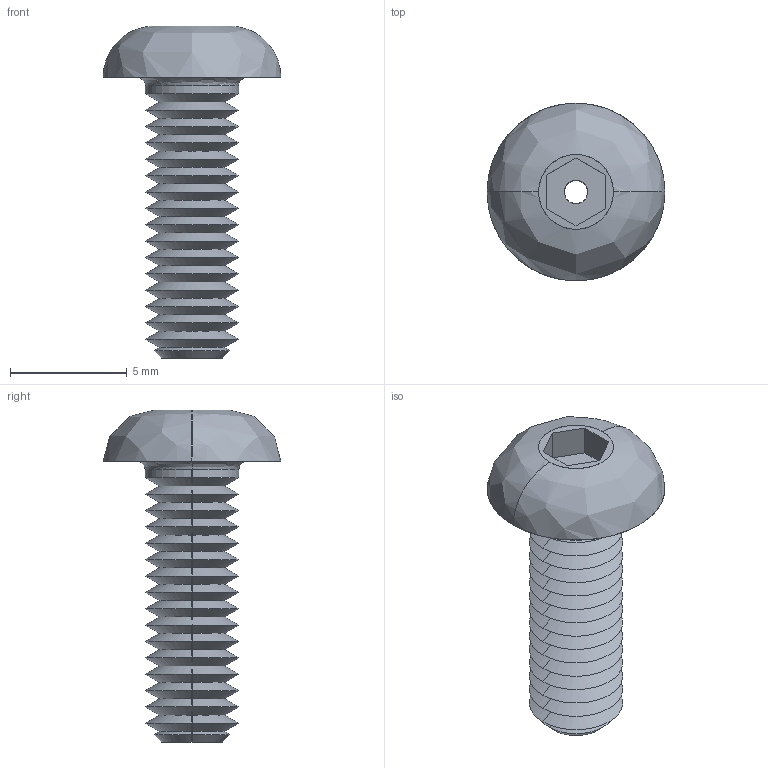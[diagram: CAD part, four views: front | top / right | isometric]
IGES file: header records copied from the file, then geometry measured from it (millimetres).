
Start section: SolidWorks IGES file using analytic representation for surfaces
Global section: file name: C:\Users\liam_\OneDrive\Documents\WORK\Work for WixRoyd\Job Files\J-00019 - Matt Davis CAD Checking\04. CAD Drawings\automotion20190605\P0094_v2\P0094_v2_20190712_IGES\P0094.040-012-A2.igs; native system: SolidWorks 2017; preprocessor: SolidWorks 2017; author: liam_; date: 190712.175240; units: millimetre
Bounding box: 7.6 x 7.6 x 14.2 mm (x, y, z)
Surface area: 406.5 mm2 (no closed solid volume)
Topology: 0 solids, 0 shells, 84 faces, 492 edges, 492 vertices
Faces by surface type: revolution 70, bspline 14
